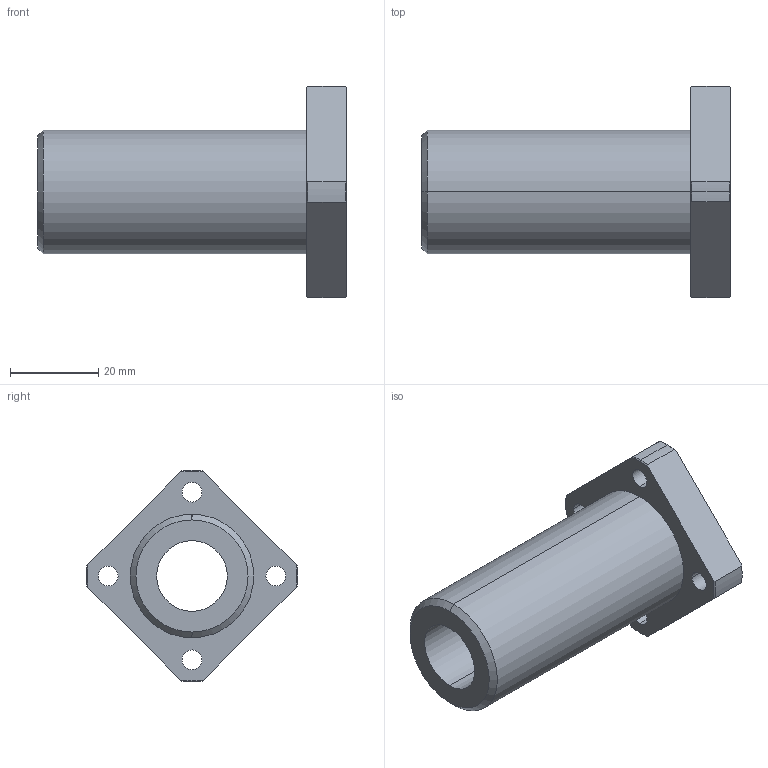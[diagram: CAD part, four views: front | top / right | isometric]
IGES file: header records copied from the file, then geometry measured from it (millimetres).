
Start section: 3D InterOp IGES (Version 21 0 1), Spatial Corp. Copyright (c) 1999-2007.
Global section: file name: DFPJ16.igs; native system: Spatial Corp.; preprocessor: 3D InterOp GENERIC/IGES 3.0; author: Noname; organization: Noname; date: 20220324.140504; units: millimetre
Bounding box: 70 x 47.98 x 48 mm (x, y, z)
Surface area: 12914 mm2 (no closed solid volume)
Topology: 0 solids, 0 shells, 48 faces, 240 edges, 240 vertices
Faces by surface type: revolution 37, extrusion 11
